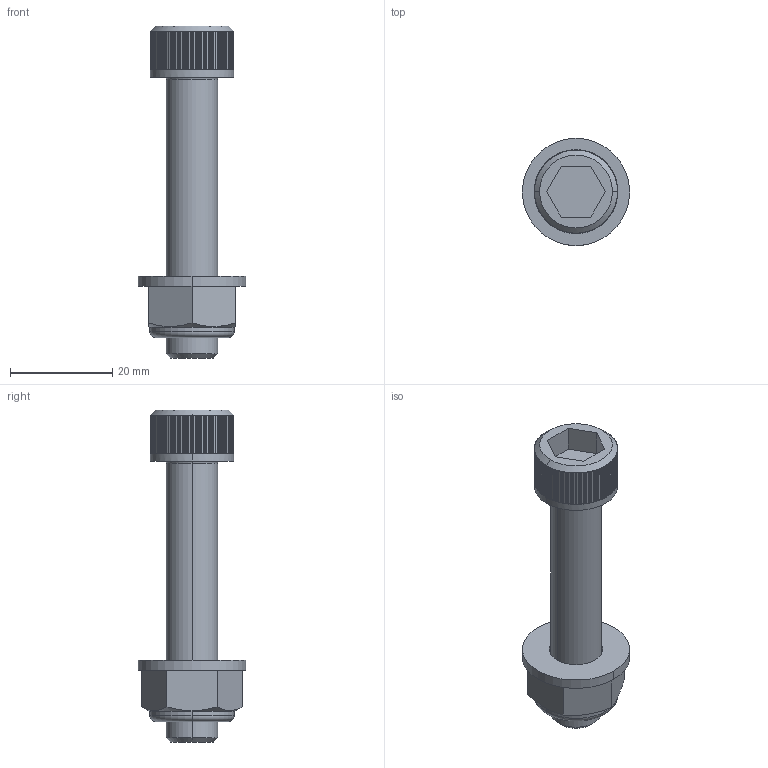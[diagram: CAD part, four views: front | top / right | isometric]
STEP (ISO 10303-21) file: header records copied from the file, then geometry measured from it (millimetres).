
FILE_DESCRIPTION (( 'STEP AP203' ), '1' );
FILE_NAME ('RAILEX STANDARD RXR-SFK10-K M10 SOCKET HEAD BOLT ASSEMBLY.STEP', '2021-06-17T15:22:43', ( '' ), ( '' ), 'SwSTEP 2.0', 'SolidWorks 2020', '' );
FILE_SCHEMA (( 'CONFIG_CONTROL_DESIGN' ));
Length unit declared in the file: millimetre
Products named in the file (4): RAILEX STANDARD RXR-SFK10-K RAILEX M10 SOCKET HEAD BOLT_M10-50; RAILEX STANDARD RXR-SFK10-K FLAT WASHER_M10; RAILEX STANDARD RXR-SFK10-K LOCK NUT_M10; RAILEX STANDARD RXR-SFK10-K M10 SOCKET HEAD BOLT ASSEMBLY
Assembly tree (3 placements, depth 2):
  RAILEX STANDARD RXR-SFK10-K M10 SOCKET HEAD BOLT ASSEMBLY
    RAILEX STANDARD RXR-SFK10-K RAILEX M10 SOCKET HEAD BOLT_M10-50
    RAILEX STANDARD RXR-SFK10-K FLAT WASHER_M10
    RAILEX STANDARD RXR-SFK10-K LOCK NUT_M10
Bounding box: 21 x 21 x 65 mm (x, y, z)
Volume: 8080.6 mm3; surface area: 4781.9 mm2
Topology: 3 solids, 3 shells, 542 faces, 1394 edges, 860 vertices
Faces by surface type: plane 520, cylinder 12, cone 6, torus 4
Entity records: 16642 total; most frequent: CARTESIAN_POINT 2866, DIRECTION 2820, ORIENTED_EDGE 2788, EDGE_CURVE 1394, LINE 1048, VECTOR 1048, AXIS2_PLACEMENT_3D 886, VERTEX_POINT 860
